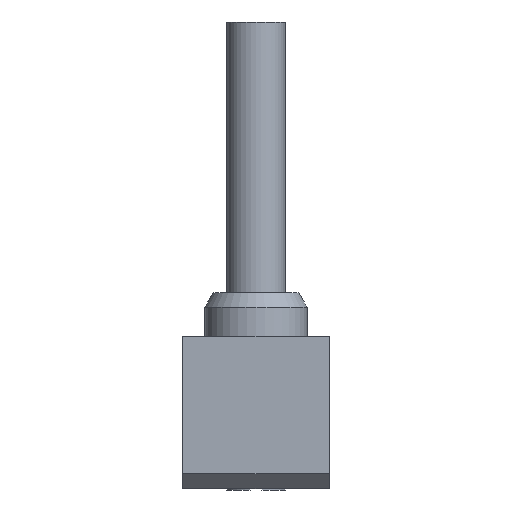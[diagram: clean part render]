
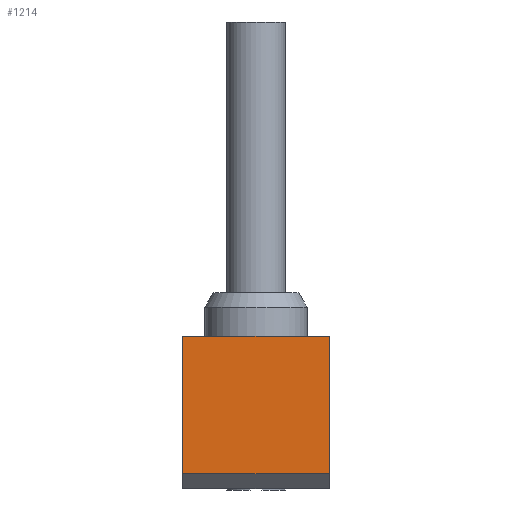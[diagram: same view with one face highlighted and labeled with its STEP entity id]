
A CAD part, left-side view. The second image highlights one B-rep face of the part: STEP entity #1214.
In plain terms, the highlighted planar face has unit normal (-1, 0, 0).
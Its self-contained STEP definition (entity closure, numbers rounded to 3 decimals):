
#84=PLANE('',#1375);
#161=FACE_OUTER_BOUND('',#240,.T.);
#240=EDGE_LOOP('',(#935,#936,#937,#938));
#335=LINE('',#1972,#424);
#336=LINE('',#1975,#425);
#342=LINE('',#1990,#431);
#343=LINE('',#1991,#432);
#424=VECTOR('',#1583,10.);
#425=VECTOR('',#1586,10.);
#431=VECTOR('',#1602,10.);
#432=VECTOR('',#1603,10.);
#582=VERTEX_POINT('',#1968);
#583=VERTEX_POINT('',#1970);
#584=VERTEX_POINT('',#1974);
#588=VERTEX_POINT('',#1989);
#713=EDGE_CURVE('',#583,#582,#335,.T.);
#714=EDGE_CURVE('',#584,#582,#336,.T.);
#721=EDGE_CURVE('',#588,#583,#342,.T.);
#722=EDGE_CURVE('',#588,#584,#343,.T.);
#935=ORIENTED_EDGE('',*,*,#713,.F.);
#936=ORIENTED_EDGE('',*,*,#721,.F.);
#937=ORIENTED_EDGE('',*,*,#722,.T.);
#938=ORIENTED_EDGE('',*,*,#714,.T.);
#1214=ADVANCED_FACE('',(#161),#84,.T.);
#1375=AXIS2_PLACEMENT_3D('',#1988,#1600,#1601);
#1583=DIRECTION('',(0.,1.,0.));
#1586=DIRECTION('',(0.,0.,-1.));
#1600=DIRECTION('center_axis',(-1.,0.,0.));
#1601=DIRECTION('ref_axis',(0.,1.,0.));
#1602=DIRECTION('',(0.,0.,-1.));
#1603=DIRECTION('',(0.,1.,0.));
#1968=CARTESIAN_POINT('',(-10.,5.,-9.4));
#1970=CARTESIAN_POINT('',(-10.,-5.,-9.4));
#1972=CARTESIAN_POINT('',(-10.,-2.5,-9.4));
#1974=CARTESIAN_POINT('',(-10.,5.,0.));
#1975=CARTESIAN_POINT('',(-10.,5.,0.));
#1988=CARTESIAN_POINT('Origin',(-10.,-5.,0.));
#1989=CARTESIAN_POINT('',(-10.,-5.,0.));
#1990=CARTESIAN_POINT('',(-10.,-5.,0.));
#1991=CARTESIAN_POINT('',(-10.,-5.,0.));
